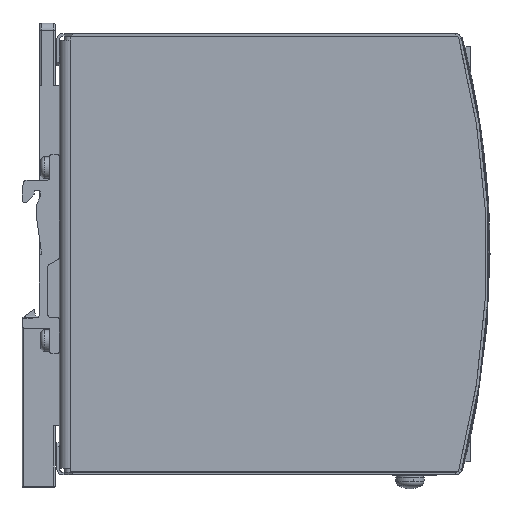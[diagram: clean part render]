
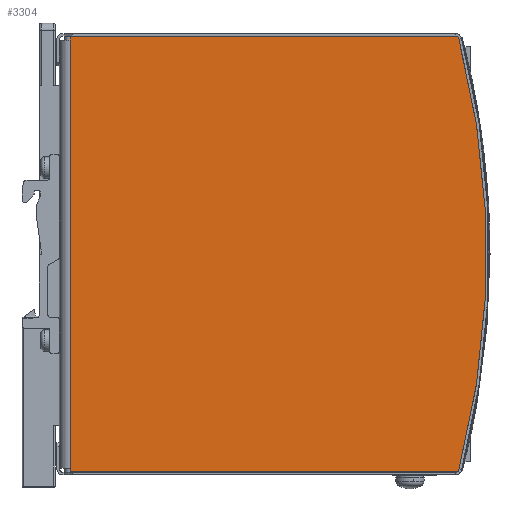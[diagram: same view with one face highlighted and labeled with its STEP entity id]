
A CAD part, front view. The second image highlights one B-rep face of the part: STEP entity #3304.
In plain terms, the highlighted planar face has unit normal (0, -1, 0) as drawn and (-1, 0, 0) by its records, which use the part's own axes.
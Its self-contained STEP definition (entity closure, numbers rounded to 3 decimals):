
#85 = CARTESIAN_POINT ( 'NONE',  ( -29.5, -111.693, 60.65 ) ) ;
#1849 = VERTEX_POINT ( 'NONE', #24435 ) ;
#2160 = DIRECTION ( 'NONE',  ( 0., 0., -1. ) ) ;
#2357 = LINE ( 'NONE', #19642, #37214 ) ;
#3031 = EDGE_CURVE ( 'NONE', #6545, #14531, #12191, .T. ) ;
#3304 = ADVANCED_FACE ( 'NONE', ( #5822 ), #11749, .T. ) ;
#3518 = EDGE_CURVE ( 'NONE', #12185, #23228, #21629, .T. ) ;
#3782 = CARTESIAN_POINT ( 'NONE',  ( -29.5, -111.693, 60.65 ) ) ;
#3848 = VECTOR ( 'NONE', #6629, 1000. ) ;
#4284 = ORIENTED_EDGE ( 'NONE', *, *, #29507, .F. ) ;
#5297 = ORIENTED_EDGE ( 'NONE', *, *, #3518, .F. ) ;
#5418 = DIRECTION ( 'NONE',  ( 0., 0., 1. ) ) ;
#5822 = FACE_OUTER_BOUND ( 'NONE', #27091, .T. ) ;
#6545 = VERTEX_POINT ( 'NONE', #31766 ) ;
#6614 = VERTEX_POINT ( 'NONE', #18499 ) ;
#6629 = DIRECTION ( 'NONE',  ( 0., 0., 1. ) ) ;
#7292 = DIRECTION ( 'NONE',  ( 1., 0., 0. ) ) ;
#7371 = DIRECTION ( 'NONE',  ( 0., 1., 0. ) ) ;
#8049 = VECTOR ( 'NONE', #7371, 1000. ) ;
#8892 = CARTESIAN_POINT ( 'NONE',  ( -29.5, 26.893, 0. ) ) ;
#9410 = ORIENTED_EDGE ( 'NONE', *, *, #3031, .F. ) ;
#9424 = EDGE_CURVE ( 'NONE', #37703, #15586, #28635, .T. ) ;
#9448 = EDGE_CURVE ( 'NONE', #17895, #6614, #27444, .T. ) ;
#9672 = CIRCLE ( 'NONE', #31120, 0.5 ) ;
#9720 = ORIENTED_EDGE ( 'NONE', *, *, #18381, .F. ) ;
#9934 = CARTESIAN_POINT ( 'NONE',  ( -29.5, -112.177, -60.777 ) ) ;
#10084 = CIRCLE ( 'NONE', #14959, 240. ) ;
#10172 = CARTESIAN_POINT ( 'NONE',  ( -29.5, -3., 61.15 ) ) ;
#10800 = CARTESIAN_POINT ( 'NONE',  ( -29.5, -3., -61.15 ) ) ;
#11749 = PLANE ( 'NONE',  #29543 ) ;
#11990 = CARTESIAN_POINT ( 'NONE',  ( -29.5, -3., -60.15 ) ) ;
#12185 = VERTEX_POINT ( 'NONE', #27607 ) ;
#12191 = LINE ( 'NONE', #11990, #3848 ) ;
#12461 = CARTESIAN_POINT ( 'NONE',  ( -29.5, -112.177, 60.777 ) ) ;
#13232 = CARTESIAN_POINT ( 'NONE',  ( -29.5, -111.693, -61.15 ) ) ;
#13658 = AXIS2_PLACEMENT_3D ( 'NONE', #14256, #27267, #22914 ) ;
#14256 = CARTESIAN_POINT ( 'NONE',  ( -29.5, -111.693, -60.65 ) ) ;
#14531 = VERTEX_POINT ( 'NONE', #24847 ) ;
#14660 = EDGE_CURVE ( 'NONE', #1849, #6545, #37284, .T. ) ;
#14959 = AXIS2_PLACEMENT_3D ( 'NONE', #23219, #15141, #17642 ) ;
#15141 = DIRECTION ( 'NONE',  ( -1., 0., 0. ) ) ;
#15191 = ORIENTED_EDGE ( 'NONE', *, *, #14660, .F. ) ;
#15466 = DIRECTION ( 'NONE',  ( 1., 0., 0. ) ) ;
#15586 = VERTEX_POINT ( 'NONE', #26251 ) ;
#17580 = DIRECTION ( 'NONE',  ( 1., 0., 0. ) ) ;
#17642 = DIRECTION ( 'NONE',  ( 0., -0.967, 0.255 ) ) ;
#17895 = VERTEX_POINT ( 'NONE', #22248 ) ;
#18381 = EDGE_CURVE ( 'NONE', #15586, #31329, #36974, .T. ) ;
#18499 = CARTESIAN_POINT ( 'NONE',  ( -29.5, -111.693, 61.15 ) ) ;
#19642 = CARTESIAN_POINT ( 'NONE',  ( -29.5, -3., 60.15 ) ) ;
#19925 = VECTOR ( 'NONE', #5418, 1000. ) ;
#20871 = CARTESIAN_POINT ( 'NONE',  ( -29.5, -111.693, -61.15 ) ) ;
#20916 = EDGE_CURVE ( 'NONE', #37703, #23228, #10084, .T. ) ;
#21629 = CIRCLE ( 'NONE', #24705, 0.5 ) ;
#22226 = ORIENTED_EDGE ( 'NONE', *, *, #9424, .F. ) ;
#22248 = CARTESIAN_POINT ( 'NONE',  ( -29.5, -3., 61.15 ) ) ;
#22914 = DIRECTION ( 'NONE',  ( 0., -0.611, -0.792 ) ) ;
#23219 = CARTESIAN_POINT ( 'NONE',  ( -29.5, 120., 0. ) ) ;
#23228 = VERTEX_POINT ( 'NONE', #12461 ) ;
#23750 = LINE ( 'NONE', #20871, #8049 ) ;
#24298 = ORIENTED_EDGE ( 'NONE', *, *, #24854, .F. ) ;
#24435 = CARTESIAN_POINT ( 'NONE',  ( -29.5, -3., -61.15 ) ) ;
#24705 = AXIS2_PLACEMENT_3D ( 'NONE', #3782, #15466, #35835 ) ;
#24818 = ORIENTED_EDGE ( 'NONE', *, *, #20916, .T. ) ;
#24847 = CARTESIAN_POINT ( 'NONE',  ( -29.5, -3., 60.15 ) ) ;
#24854 = EDGE_CURVE ( 'NONE', #14531, #17895, #2357, .T. ) ;
#25313 = CARTESIAN_POINT ( 'NONE',  ( -29.5, -111.693, -60.65 ) ) ;
#25484 = ORIENTED_EDGE ( 'NONE', *, *, #34024, .F. ) ;
#26251 = CARTESIAN_POINT ( 'NONE',  ( -29.5, -111.999, -61.046 ) ) ;
#27091 = EDGE_LOOP ( 'NONE', ( #15191, #25484, #9720, #22226, #24818, #5297, #4284, #28407, #24298, #9410 ) ) ;
#27267 = DIRECTION ( 'NONE',  ( 1., 0., 0. ) ) ;
#27444 = LINE ( 'NONE', #10172, #36041 ) ;
#27607 = CARTESIAN_POINT ( 'NONE',  ( -29.5, -111.999, 61.046 ) ) ;
#28042 = AXIS2_PLACEMENT_3D ( 'NONE', #25313, #7292, #36450 ) ;
#28407 = ORIENTED_EDGE ( 'NONE', *, *, #9448, .F. ) ;
#28451 = DIRECTION ( 'NONE',  ( -1., 0., 0. ) ) ;
#28635 = CIRCLE ( 'NONE', #28042, 0.5 ) ;
#29283 = DIRECTION ( 'NONE',  ( 0., -0.611, 0.792 ) ) ;
#29507 = EDGE_CURVE ( 'NONE', #6614, #12185, #9672, .T. ) ;
#29543 = AXIS2_PLACEMENT_3D ( 'NONE', #8892, #28451, #2160 ) ;
#31120 = AXIS2_PLACEMENT_3D ( 'NONE', #85, #17580, #29283 ) ;
#31192 = DIRECTION ( 'NONE',  ( 0., 0., 1. ) ) ;
#31329 = VERTEX_POINT ( 'NONE', #13232 ) ;
#31766 = CARTESIAN_POINT ( 'NONE',  ( -29.5, -3., -60.15 ) ) ;
#33959 = DIRECTION ( 'NONE',  ( 0., -1., 0. ) ) ;
#34024 = EDGE_CURVE ( 'NONE', #31329, #1849, #23750, .T. ) ;
#35835 = DIRECTION ( 'NONE',  ( 0., -0.611, 0.792 ) ) ;
#36041 = VECTOR ( 'NONE', #33959, 1000. ) ;
#36450 = DIRECTION ( 'NONE',  ( 0., -0.611, -0.792 ) ) ;
#36974 = CIRCLE ( 'NONE', #13658, 0.5 ) ;
#37214 = VECTOR ( 'NONE', #31192, 1000. ) ;
#37284 = LINE ( 'NONE', #10800, #19925 ) ;
#37703 = VERTEX_POINT ( 'NONE', #9934 ) ;
